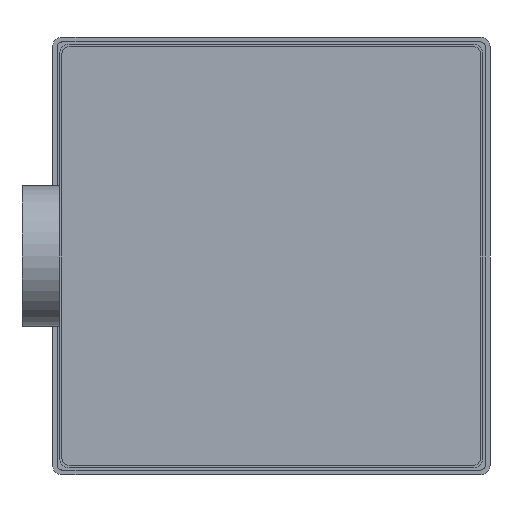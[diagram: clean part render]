
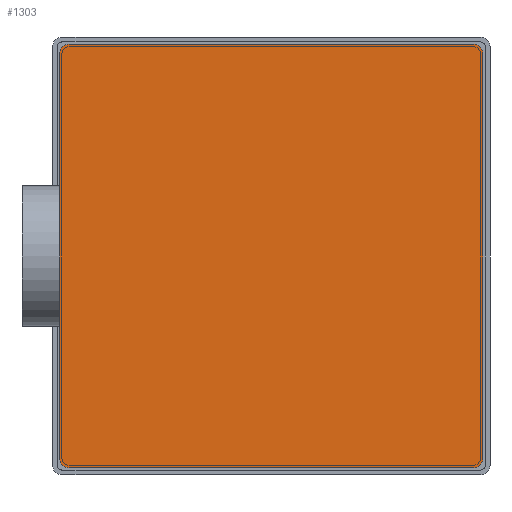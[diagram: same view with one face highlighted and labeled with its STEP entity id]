
A CAD part, front view. The second image highlights one B-rep face of the part: STEP entity #1303.
In plain terms, the highlighted planar face has unit normal (0, -1, 0).
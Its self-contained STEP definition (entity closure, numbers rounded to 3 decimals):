
#42=PLANE('',#1423);
#90=FACE_OUTER_BOUND('',#173,.T.);
#173=EDGE_LOOP('',(#916,#917,#918,#919,#920,#921,#922,#923));
#264=LINE('',#2046,#368);
#267=LINE('',#2057,#371);
#270=LINE('',#2068,#374);
#271=LINE('',#2069,#375);
#368=VECTOR('',#1614,10.);
#371=VECTOR('',#1625,10.);
#374=VECTOR('',#1638,10.);
#375=VECTOR('',#1639,10.);
#474=CIRCLE('',#1414,2.);
#476=CIRCLE('',#1418,2.);
#478=CIRCLE('',#1422,2.);
#479=CIRCLE('',#1424,2.);
#564=VERTEX_POINT('',#2033);
#565=VERTEX_POINT('',#2035);
#567=VERTEX_POINT('',#2040);
#569=VERTEX_POINT('',#2044);
#571=VERTEX_POINT('',#2050);
#572=VERTEX_POINT('',#2054);
#575=VERTEX_POINT('',#2062);
#576=VERTEX_POINT('',#2066);
#694=EDGE_CURVE('',#564,#565,#474,.T.);
#699=EDGE_CURVE('',#569,#567,#264,.T.);
#702=EDGE_CURVE('',#571,#569,#476,.T.);
#704=EDGE_CURVE('',#572,#564,#267,.T.);
#708=EDGE_CURVE('',#575,#572,#478,.T.);
#709=EDGE_CURVE('',#567,#576,#479,.T.);
#710=EDGE_CURVE('',#565,#571,#270,.T.);
#711=EDGE_CURVE('',#576,#575,#271,.T.);
#916=ORIENTED_EDGE('',*,*,#709,.F.);
#917=ORIENTED_EDGE('',*,*,#699,.F.);
#918=ORIENTED_EDGE('',*,*,#702,.F.);
#919=ORIENTED_EDGE('',*,*,#710,.F.);
#920=ORIENTED_EDGE('',*,*,#694,.F.);
#921=ORIENTED_EDGE('',*,*,#704,.F.);
#922=ORIENTED_EDGE('',*,*,#708,.F.);
#923=ORIENTED_EDGE('',*,*,#711,.F.);
#1303=ADVANCED_FACE('',(#90),#42,.F.);
#1414=AXIS2_PLACEMENT_3D('',#2036,#1606,#1607);
#1418=AXIS2_PLACEMENT_3D('',#2052,#1620,#1621);
#1422=AXIS2_PLACEMENT_3D('',#2064,#1632,#1633);
#1423=AXIS2_PLACEMENT_3D('',#2065,#1634,#1635);
#1424=AXIS2_PLACEMENT_3D('',#2067,#1636,#1637);
#1606=DIRECTION('center_axis',(0.,1.,0.));
#1607=DIRECTION('ref_axis',(-0.707,0.,-0.707));
#1614=DIRECTION('',(1.,0.,0.));
#1620=DIRECTION('center_axis',(0.,1.,0.));
#1621=DIRECTION('ref_axis',(-0.707,0.,0.707));
#1625=DIRECTION('',(-1.,0.,0.));
#1632=DIRECTION('center_axis',(0.,1.,0.));
#1633=DIRECTION('ref_axis',(0.707,0.,-0.707));
#1634=DIRECTION('center_axis',(0.,1.,0.));
#1635=DIRECTION('ref_axis',(0.,0.,
-1.));
#1636=DIRECTION('center_axis',(0.,1.,0.));
#1637=DIRECTION('ref_axis',(0.707,0.,0.707));
#1638=DIRECTION('',(0.,0.,1.));
#1639=DIRECTION('',(0.,0.,-1.));
#2033=CARTESIAN_POINT('',(-43.,0.,-10.582));
#2035=CARTESIAN_POINT('',(-45.,0.,-8.582));
#2036=CARTESIAN_POINT('Origin',(-43.,0.,-8.582));
#2040=CARTESIAN_POINT('',(43.,0.,79.418));
#2044=CARTESIAN_POINT('',(-43.,0.,79.418));
#2046=CARTESIAN_POINT('',(-45.,0.,79.418));
#2050=CARTESIAN_POINT('',(-45.,0.,77.418));
#2052=CARTESIAN_POINT('Origin',(-43.,0.,77.418));
#2054=CARTESIAN_POINT('',(43.,0.,-10.582));
#2057=CARTESIAN_POINT('',(45.,0.,-10.582));
#2062=CARTESIAN_POINT('',(45.,0.,-8.582));
#2064=CARTESIAN_POINT('Origin',(43.,0.,-8.582));
#2065=CARTESIAN_POINT('Origin',(0.,0.,
34.418));
#2066=CARTESIAN_POINT('',(45.,0.,77.418));
#2067=CARTESIAN_POINT('Origin',(43.,0.,77.418));
#2068=CARTESIAN_POINT('',(-45.,0.,-10.582));
#2069=CARTESIAN_POINT('',(45.,0.,79.418));
